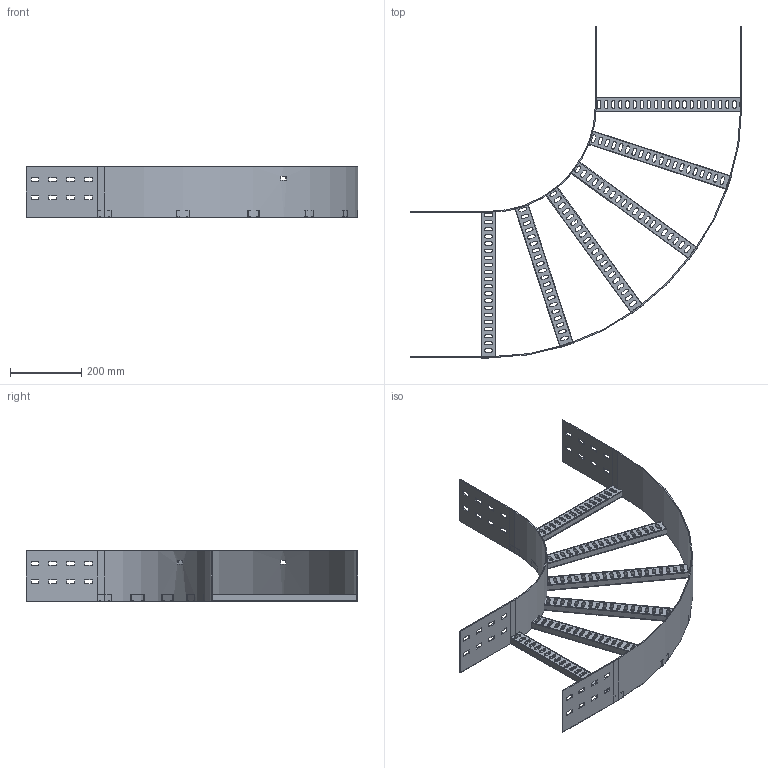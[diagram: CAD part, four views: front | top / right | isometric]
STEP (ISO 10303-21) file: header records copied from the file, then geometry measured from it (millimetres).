
FILE_DESCRIPTION(/* description */ ('','CAx-IF Rec.Pracs.---Representation and Presentation of Product Manufacturing Information (PMI)---4.0---2014-10-13'),/* implementation_level */ '2;1');
FILE_NAME(/* name */ 'Eurostrut_EFB150-400-90-300_Bend 90 for Cable Ladder ECL.step',/* time_stamp */ '2026-09-07T12:14:58+02:00',/* author */ (''),/* organization */ (''),/* preprocessor_version */ 'ST-DEVELOPER v20.1',/* originating_system */ 'Autodesk Revit 2027 27.2.0.39',/* authorisation */ '');
FILE_SCHEMA (('AP242_MANAGED_MODEL_BASED_3D_ENGINEERING_MIM_LF { 1 0 10303 442 2 1 4 }'));
Length unit declared in the file: millimetre
Products named in the file (6): TopLevelAssembly; Sweep; Extrusion; Extrusion_1; Eurostrut_Cable Ladder_Rung_Horizontal Bend_With slots; Eurostrut_Cable Ladder_Accessory End SWEEP
Assembly tree (8 placements, depth 2):
  TopLevelAssembly
    Sweep
    Extrusion
    Extrusion_1
    Eurostrut_Cable Ladder_Rung_Horizontal Bend_With slots
    Eurostrut_Cable Ladder_Accessory End SWEEP  x4
Bounding box: 931 x 931 x 142 mm (x, y, z)
Volume: 1328740.2 mm3; surface area: 1136101.4 mm2
Topology: 16 solids, 16 shells, 808 faces, 2328 edges, 1552 vertices
Faces by surface type: plane 528, bspline 252, cylinder 28
Entity records: 30492 total; most frequent: CARTESIAN_POINT 11764, ORIENTED_EDGE 4008, DIRECTION 3484, EDGE_CURVE 2004, LINE 1436, VECTOR 1436, VERTEX_POINT 1336, AXIS2_PLACEMENT_3D 1024
